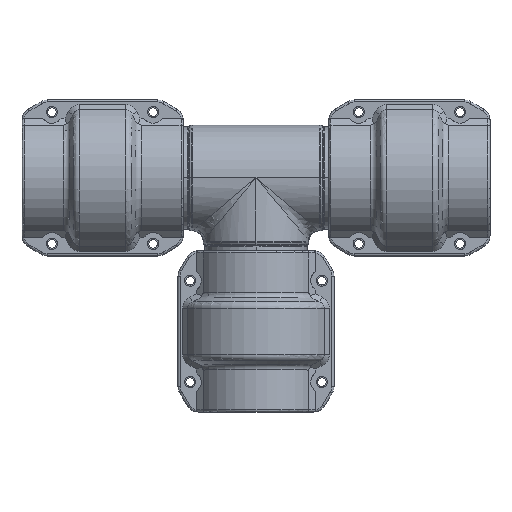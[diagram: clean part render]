
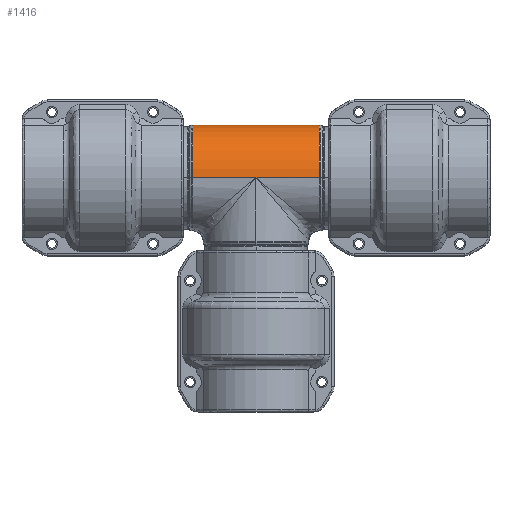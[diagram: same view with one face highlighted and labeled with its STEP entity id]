
A CAD part, top view. The second image highlights one B-rep face of the part: STEP entity #1416.
In plain terms, the highlighted cylindrical face has radius 26.1 mm (diameter 52.2 mm), a partial arc.
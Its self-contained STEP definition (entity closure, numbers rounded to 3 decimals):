
#273=CARTESIAN_POINT('',(0.,0.,
26.1));
#278=DIRECTION('',(1.,0.,0.));
#279=VECTOR('',#278,31.213);
#280=CARTESIAN_POINT('',(0.,0.,
26.1));
#281=LINE('',#280,#279);
#285=DIRECTION('',(1.,0.,0.));
#286=VECTOR('',#285,31.213);
#287=CARTESIAN_POINT('',(-31.213,0.,-26.1));
#288=LINE('',#287,#286);
#292=DIRECTION('',(1.,0.,0.));
#293=VECTOR('',#292,31.213);
#294=CARTESIAN_POINT('',(0.,0.,
-26.1));
#295=LINE('',#294,#293);
#299=DIRECTION('',(1.,0.,0.));
#300=VECTOR('',#299,31.213);
#301=CARTESIAN_POINT('',(-31.213,0.,26.1));
#302=LINE('',#301,#300);
#375=CARTESIAN_POINT('',(-31.213,0.,0.));
#376=DIRECTION('',(1.,0.,0.));
#377=DIRECTION('',(0.,0.,-1.));
#378=AXIS2_PLACEMENT_3D('',#375,#376,#377);
#1075=CARTESIAN_POINT('',(31.213,0.,0.));
#1076=DIRECTION('',(-1.,0.,0.));
#1077=DIRECTION('',(0.,0.,1.));
#1078=AXIS2_PLACEMENT_3D('',#1075,#1076,#1077);
#1131=CARTESIAN_POINT('',(31.213,0.,-26.1));
#1132=CARTESIAN_POINT('',(31.213,0.,26.1));
#1133=VERTEX_POINT('',#1131);
#1134=VERTEX_POINT('',#1132);
#1135=CARTESIAN_POINT('',(0.,0.,
-26.1));
#1136=VERTEX_POINT('',#1135);
#1137=VERTEX_POINT('',#273);
#1138=CARTESIAN_POINT('',(-31.213,0.,26.1));
#1139=CARTESIAN_POINT('',(-31.213,0.,-26.1));
#1140=VERTEX_POINT('',#1138);
#1141=VERTEX_POINT('',#1139);
#1399=CARTESIAN_POINT('',(95.195,0.,0.));
#1400=DIRECTION('',(-1.,0.,0.));
#1401=DIRECTION('',(0.,0.,1.));
#1402=AXIS2_PLACEMENT_3D('',#1399,#1400,#1401);
#1403=CYLINDRICAL_SURFACE('',#1402,26.1);
#1405=ORIENTED_EDGE('',*,*,#1404,.T.);
#1406=ORIENTED_EDGE('',*,*,#1390,.T.);
#1408=ORIENTED_EDGE('',*,*,#1407,.F.);
#1409=ORIENTED_EDGE('',*,*,#1394,.F.);
#1411=ORIENTED_EDGE('',*,*,#1410,.F.);
#1413=ORIENTED_EDGE('',*,*,#1412,.F.);
#1414=EDGE_LOOP('',(#1405,#1406,#1408,#1409,#1411,#1413));
#1415=FACE_OUTER_BOUND('',#1414,.F.);
#379=CIRCLE('',#378,26.1);
#1079=CIRCLE('',#1078,26.1);
#1390=EDGE_CURVE('',#1136,#1133,#295,.T.);
#1394=EDGE_CURVE('',#1137,#1134,#281,.T.);
#1404=EDGE_CURVE('',#1141,#1136,#288,.T.);
#1407=EDGE_CURVE('',#1134,#1133,#1079,.T.);
#1410=EDGE_CURVE('',#1140,#1137,#302,.T.);
#1412=EDGE_CURVE('',#1141,#1140,#379,.T.);
#1416=ADVANCED_FACE('',(#1415),#1403,.T.);
